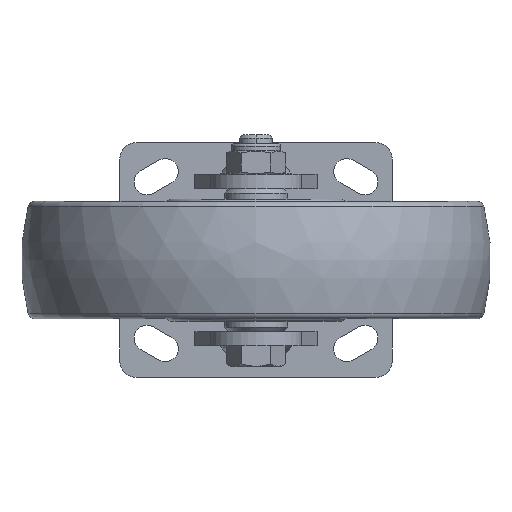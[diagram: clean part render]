
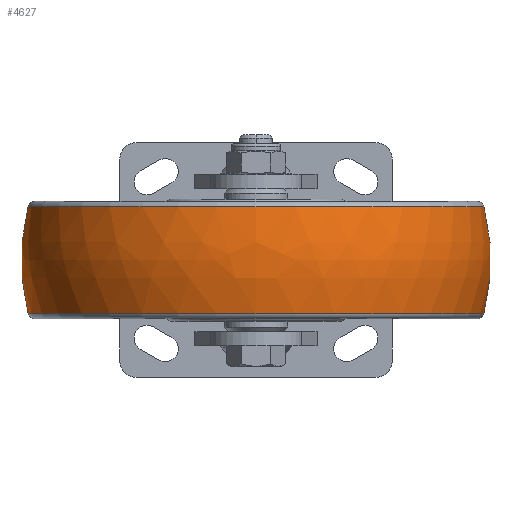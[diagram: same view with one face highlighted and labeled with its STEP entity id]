
A CAD part, front view. The second image highlights one B-rep face of the part: STEP entity #4627.
In plain terms, the highlighted free-form (B-spline) face has degree [3, 3] with [7, 4] control points.
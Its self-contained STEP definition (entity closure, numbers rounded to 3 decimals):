
#2447=CARTESIAN_POINT('',(0.,10.001,0.));
#2448=DIRECTION('',(0.,0.,1.));
#2449=DIRECTION('',(0.253,0.967,0.));
#2450=AXIS2_PLACEMENT_3D('',#2447,#2448,#2449);
#2452=CARTESIAN_POINT('',(0.,-10.001,0.));
#2453=DIRECTION('',(0.,0.,-1.));
#2454=DIRECTION('',(0.253,-0.967,0.));
#2455=AXIS2_PLACEMENT_3D('',#2452,#2453,#2454);
#2457=CARTESIAN_POINT('',(22.759,0.,0.));
#2458=DIRECTION('',(-1.,0.,0.));
#2459=DIRECTION('',(0.,1.,0.));
#2460=AXIS2_PLACEMENT_3D('',#2457,#2458,#2459);
#2472=CARTESIAN_POINT('',(-22.759,0.,0.));
#2473=DIRECTION('',(-1.,0.,0.));
#2474=DIRECTION('',(0.,1.,0.));
#2475=AXIS2_PLACEMENT_3D('',#2472,#2473,#2474);
#4300=CARTESIAN_POINT('',(22.759,97.076,
0.));
#4301=CARTESIAN_POINT('',(-22.759,97.076,
0.));
#4302=VERTEX_POINT('',#4300);
#4303=VERTEX_POINT('',#4301);
#4324=CARTESIAN_POINT('',(22.759,-97.076,
0.));
#4325=CARTESIAN_POINT('',(-22.759,-97.076,
0.));
#4326=VERTEX_POINT('',#4324);
#4327=VERTEX_POINT('',#4325);
#4590=CARTESIAN_POINT('',(-23.648,-96.648,
6.081));
#4591=CARTESIAN_POINT('',(-8.072,-100.881,
6.347));
#4592=CARTESIAN_POINT('',(8.072,-100.881,6.347));
#4593=CARTESIAN_POINT('',(23.648,-96.648,6.081));
#4594=CARTESIAN_POINT('',(-23.648,-100.39,
-53.396));
#4595=CARTESIAN_POINT('',(-8.072,-104.787,
-55.735));
#4596=CARTESIAN_POINT('',(8.072,-104.787,
-55.735));
#4597=CARTESIAN_POINT('',(23.648,-100.39,
-53.396));
#4598=CARTESIAN_POINT('',(-23.648,-59.595,
-96.839));
#4599=CARTESIAN_POINT('',(-8.072,-62.205,
-101.081));
#4600=CARTESIAN_POINT('',(8.072,-62.205,
-101.081));
#4601=CARTESIAN_POINT('',(23.648,-59.595,
-96.839));
#4602=CARTESIAN_POINT('',(-23.648,0.,
-96.839));
#4603=CARTESIAN_POINT('',(-8.072,0.,-101.081));
#4604=CARTESIAN_POINT('',(8.072,0.,
-101.081));
#4605=CARTESIAN_POINT('',(23.648,0.,-96.839));
#4606=CARTESIAN_POINT('',(-23.648,59.595,
-96.839));
#4607=CARTESIAN_POINT('',(-8.072,62.205,
-101.081));
#4608=CARTESIAN_POINT('',(8.072,62.205,-101.081));
#4609=CARTESIAN_POINT('',(23.648,59.595,-96.839));
#4610=CARTESIAN_POINT('',(-23.648,100.39,
-53.396));
#4611=CARTESIAN_POINT('',(-8.072,104.787,
-55.735));
#4612=CARTESIAN_POINT('',(8.072,104.787,-55.735));
#4613=CARTESIAN_POINT('',(23.648,100.39,-53.396));
#4614=CARTESIAN_POINT('',(-23.648,96.648,6.081));
#4615=CARTESIAN_POINT('',(-8.072,100.881,6.347));
#4616=CARTESIAN_POINT('',(8.072,100.881,6.347));
#4617=CARTESIAN_POINT('',(23.648,96.648,6.081));
#4618=(BOUNDED_SURFACE()B_SPLINE_SURFACE(3,3,((#4590,#4591,#4592,#4593),(#4594,
#4595,#4596,#4597),(#4598,#4599,#4600,#4601),(#4602,#4603,#4604,#4605),(#4606,
#4607,#4608,#4609),(#4610,#4611,#4612,#4613),(#4614,#4615,#4616,#4617)),
.UNSPECIFIED.,.F.,.F.,.F.)B_SPLINE_SURFACE_WITH_KNOTS((4,3,4),(4,4),(0.,1.,
2.),(0.,1.),.UNSPECIFIED.)GEOMETRIC_REPRESENTATION_ITEM()RATIONAL_B_SPLINE_SURFACE(((1.208,1.18,1.18,1.208),(
0.954,0.932,0.932,0.954),(
0.954,0.932,0.932,0.954),(
1.208,1.18,1.18,1.208),(
0.954,0.932,0.932,0.954),(
0.954,0.932,0.932,0.954),(
1.208,1.18,1.18,1.208)))REPRESENTATION_ITEM('')SURFACE());
#4619=ORIENTED_EDGE('',*,*,#4579,.T.);
#4621=ORIENTED_EDGE('',*,*,#4620,.T.);
#4622=ORIENTED_EDGE('',*,*,#4583,.F.);
#4624=ORIENTED_EDGE('',*,*,#4623,.F.);
#4625=EDGE_LOOP('',(#4619,#4621,#4622,#4624));
#4626=FACE_OUTER_BOUND('',#4625,.F.);
#2451=CIRCLE('',#2450,90.);
#2456=CIRCLE('',#2455,90.);
#2461=CIRCLE('',#2460,97.076);
#2476=CIRCLE('',#2475,97.076);
#4579=EDGE_CURVE('',#4302,#4303,#2451,.T.);
#4583=EDGE_CURVE('',#4326,#4327,#2456,.T.);
#4620=EDGE_CURVE('',#4303,#4327,#2476,.T.);
#4623=EDGE_CURVE('',#4302,#4326,#2461,.T.);
#4627=ADVANCED_FACE('',(#4626),#4618,.T.);
